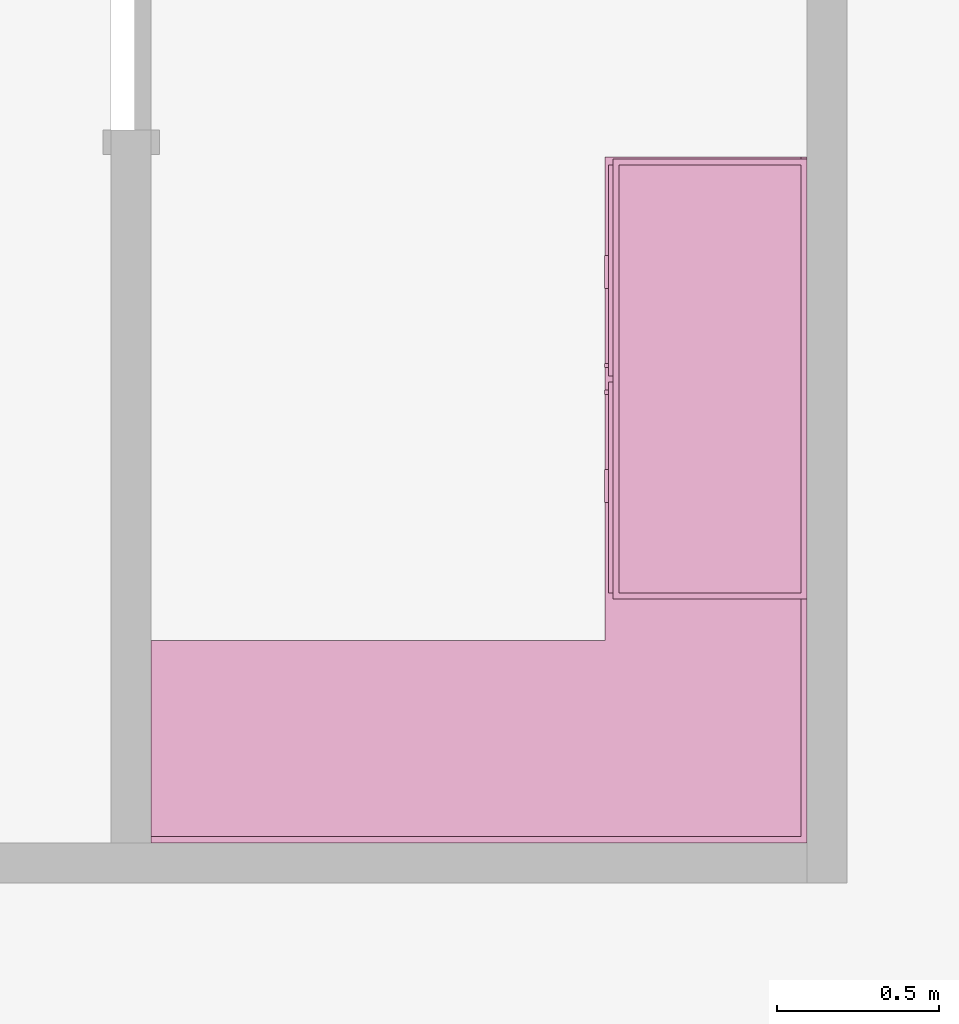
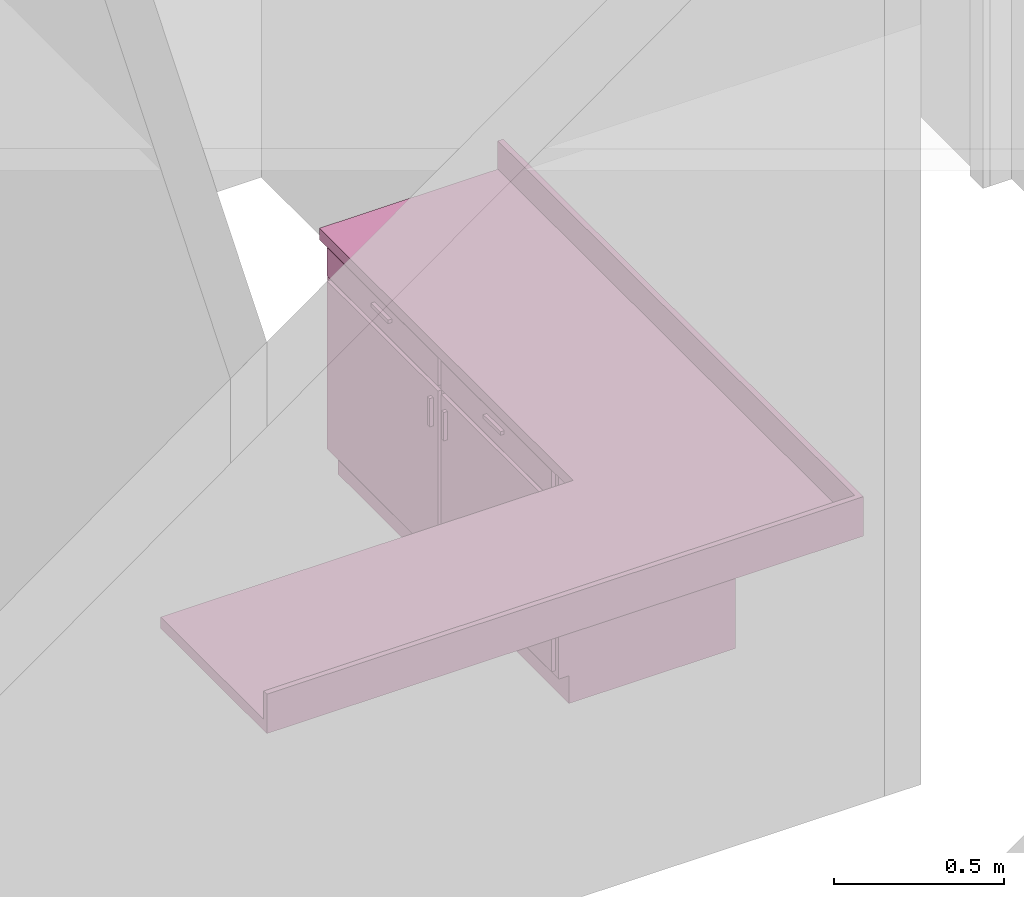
# One storey, part 47 of 47: 2 furnishings.
"""IFC2X3 building model written with IfcOpenShell, lengths in metres."""

from ifc_helpers import new_model, entity, si_unit, converted_unit, frame, origin, place, context, project, spatial, face_set, surface_model, source, transform, mapped, type_object, type_shapes, element, save


model = new_model("IFC2X3")

# Units and contexts
model_context = context("Model", 3, precision=1e-09, world=origin())
plan_context = context("Plan", 3, precision=1e-09, world=origin())
ifc_project = project(units=[si_unit("LENGTHUNIT", "METRE"), si_unit("AREAUNIT", "SQUARE_METRE"), si_unit("VOLUMEUNIT", "CUBIC_METRE"), converted_unit("PLANEANGLEUNIT", "DEGREE", entity("IfcRatioMeasure", 0.01745329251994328), si_unit("PLANEANGLEUNIT", "RADIAN"), dimensions=[0, 0, 0, 0, 0, 0, 0]), si_unit("TIMEUNIT", "SECOND")], contexts=[model_context, plan_context])

# Site, building, storey, space
site_placement = place(None, origin())
site = spatial("IfcSite", under=ifc_project, at=site_placement, Name="Default", CompositionType="ELEMENT")
building_placement = place(site_placement, origin())
building = spatial("IfcBuilding", under=site, at=building_placement, CompositionType="ELEMENT")
storey_placement = place(building_placement, frame((0.0, 0.0, 4.570000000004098)))
storey = spatial("IfcBuildingStorey", under=building, at=storey_placement, Name="Second Floor", CompositionType="ELEMENT", Elevation=4.570000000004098)
space_placement = place(storey_placement, origin())
space = spatial("IfcSpace", under=storey, at=space_placement, Name="2A13", CompositionType="ELEMENT", InteriorOrExteriorSpace="INTERNAL")

# Furnishings
furniture_type_1 = type_object("IfcFurnitureType", Name="1360mm", AssemblyPlace="NOTDEFINED")
shared_shape_1 = source(origin(), model_context, "Body", "SurfaceModel", [
    surface_model("IfcFaceBasedSurfaceModel", [(1.340949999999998, 0.04445000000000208, 0.86000000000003), (1.340949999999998, 0.04445000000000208, 0.09999999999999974), (0.01905000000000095, 0.04445000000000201, 0.09999999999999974), (0.01905000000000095, 0.04445000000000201, 0.86000000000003), (1.359999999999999, 0.02540000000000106, 0.8600000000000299), (0.0, 0.02540000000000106, 0.8600000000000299), (1.359999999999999, 0.02540000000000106, 0.09999999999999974), (0.0, 0.02540000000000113, 0.0999999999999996), (0.01905000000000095, 0.6063499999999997, 0.86000000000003), (0.01905000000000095, 0.6063499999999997, 0.09999999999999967), (0.01905000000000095, 0.06040000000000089, 0.09999999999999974), (0.0, 0.6254000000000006, 0.8600000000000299), (0.0, 0.6254000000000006, 0.0), (0.0, 0.06040000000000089, 0.0), (0.0, 0.06040000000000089, 0.09999999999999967), (1.340949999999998, 0.6063499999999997, 0.86000000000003), (1.340949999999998, 0.6063499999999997, 0.09999999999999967), (1.359999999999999, 0.6254000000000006, 0.8600000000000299), (1.359999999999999, 0.6254000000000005, 0.0), (1.340949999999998, 0.06040000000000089, 0.09999999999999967), (1.359999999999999, 0.06040000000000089, 0.09999999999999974), (1.359999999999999, 0.06040000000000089, 0.0), (0.4003250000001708, 0.0, 0.8155500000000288), (0.4003250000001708, 0.0, 0.8028500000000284), (0.2987250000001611, 0.0, 0.8028500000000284), (0.2987250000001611, 0.0, 0.8155500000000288), (1.061275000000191, 0.0, 0.8155500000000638), (1.061275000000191, 0.0, 0.8028500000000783), (0.9596750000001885, 0.0, 0.8028500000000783), (0.9596750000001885, 0.0, 0.8155500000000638), (0.6450750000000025, 0.0, 0.6822000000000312), (0.6450750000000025, 0.0, 0.5806000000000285), (0.6323750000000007, 0.0, 0.5806000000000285), (0.6323750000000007, 0.0, 0.6822000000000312), (0.7276249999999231, 0.0, 0.6822000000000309), (0.7276249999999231, 0.0, 0.5806000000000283), (0.7149249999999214, 0.0, 0.5806000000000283), (0.7149249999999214, 0.0, 0.6822000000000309), (0.4003250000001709, 0.01270000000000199, 0.8155500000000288), (0.4003250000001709, 0.01270000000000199, 0.8028500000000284), (0.2987250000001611, 0.01270000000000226, 0.8028500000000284), (0.2987250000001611, 0.01270000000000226, 0.8155500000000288), (1.061275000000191, 0.01269999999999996, 0.8155500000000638), (1.061275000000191, 0.01269999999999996, 0.8028500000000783), (0.9596750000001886, 0.01270000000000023, 0.8028500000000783), (0.9596750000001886, 0.01270000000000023, 0.8155500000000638), (0.6450750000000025, 0.01270000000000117, 0.6822000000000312), (0.6450750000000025, 0.01270000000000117, 0.5806000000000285), (0.6323750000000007, 0.01270000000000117, 0.5806000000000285), (0.6323750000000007, 0.01270000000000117, 0.6822000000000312), (0.7276249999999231, 0.0127000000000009, 0.6822000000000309), (0.7276249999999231, 0.0127000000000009, 0.5806000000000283), (0.7149249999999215, 0.01270000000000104, 0.5806000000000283), (0.7149249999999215, 0.01270000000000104, 0.6822000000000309), (0.6704749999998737, 0.01270000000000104, 0.8409500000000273), (0.6704749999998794, 0.01270000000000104, 0.7393500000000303), (0.01905000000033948, 0.01270000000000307, 0.7393500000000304), (0.01905000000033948, 0.01270000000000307, 0.8409500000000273), (1.340950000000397, 0.01269999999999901, 0.8409500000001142), (1.340950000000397, 0.01269999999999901, 0.7393500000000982), (0.6895249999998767, 0.01270000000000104, 0.7393500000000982), (0.6895249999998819, 0.01270000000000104, 0.8409500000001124), (0.6704749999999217, 0.01270000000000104, 0.7203000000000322), (0.6704749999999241, 0.01270000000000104, 0.1190499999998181), (0.01905000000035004, 0.01270000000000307, 0.1190499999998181), (0.01905000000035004, 0.01270000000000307, 0.7203000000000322), (1.340950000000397, 0.01269999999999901, 0.7203000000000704), (1.340950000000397, 0.01269999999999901, 0.1190499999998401), (0.6895249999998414, 0.01270000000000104, 0.1190499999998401), (0.6895249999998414, 0.01270000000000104, 0.7203000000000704), (0.6704749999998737, 0.025400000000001, 0.8409500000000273), (0.6704749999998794, 0.025400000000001, 0.7393500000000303), (0.01905000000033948, 0.02540000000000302, 0.7393500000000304), (0.01905000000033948, 0.02540000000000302, 0.8409500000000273), (1.340950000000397, 0.02539999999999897, 0.8409500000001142), (1.340950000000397, 0.02539999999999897, 0.7393500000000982), (0.6895249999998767, 0.02540000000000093, 0.7393500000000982), (0.6895249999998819, 0.02540000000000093, 0.8409500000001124), (0.6704749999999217, 0.025400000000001, 0.7203000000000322), (0.6704749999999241, 0.025400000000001, 0.1190499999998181), (0.01905000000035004, 0.02540000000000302, 0.1190499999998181), (0.01905000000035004, 0.02540000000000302, 0.7203000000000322), (1.340950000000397, 0.02539999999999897, 0.7203000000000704), (1.340950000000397, 0.02539999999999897, 0.1190499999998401), (0.6895249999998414, 0.02540000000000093, 0.1190499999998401), (0.6895249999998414, 0.02540000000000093, 0.7203000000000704), (1.340949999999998, 0.6063499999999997, 0.1190499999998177), (1.340949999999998, 0.04445000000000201, 0.1190499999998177), (0.01905000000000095, 0.04445000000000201, 0.1190499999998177), (0.01905000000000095, 0.6063499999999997, 0.1190499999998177), (1.340949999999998, 0.6063499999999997, 0.09999999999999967), (1.340949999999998, 0.04445000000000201, 0.09999999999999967), (0.01905000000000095, 0.04445000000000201, 0.09999999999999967), (0.01905000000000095, 0.6063499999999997, 0.09999999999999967)], [face_set([[[0, 1, 2, 3]], [[0, 4, 5, 3]], [[4, 6, 7, 5]], [[2, 1, 6, 7]], [[3, 8, 9, 10, 2]], [[5, 11, 8, 3]], [[7, 5, 11, 12, 13, 14]], [[2, 7, 14, 10]], [[8, 15, 16, 9]], [[11, 17, 15, 8]], [[12, 11, 17, 18]], [[1, 19, 16, 15, 0]], [[0, 15, 17, 4]], [[4, 6, 20, 21, 18, 17]], [[6, 1, 19, 20]], [[10, 9, 16, 19]], [[18, 21, 13, 12]], [[13, 14, 10, 19, 20, 21]]]), face_set([[[22, 23, 24, 25]], [[26, 27, 28, 29]], [[30, 31, 32, 33]], [[34, 35, 36, 37]], [[38, 39, 40, 41]], [[42, 43, 44, 45]], [[46, 47, 48, 49]], [[50, 51, 52, 53]], [[25, 41, 38, 22]], [[24, 40, 41, 25]], [[23, 24, 40, 39]], [[22, 23, 39, 38]], [[29, 45, 42, 26]], [[28, 44, 45, 29]], [[27, 28, 44, 43]], [[26, 27, 43, 42]], [[33, 49, 46, 30]], [[32, 48, 49, 33]], [[31, 32, 48, 47]], [[30, 31, 47, 46]], [[37, 53, 50, 34]], [[36, 52, 53, 37]], [[35, 36, 52, 51]], [[34, 35, 51, 50]]]), face_set([[[54, 55, 56, 57]], [[58, 59, 60, 61]], [[62, 63, 64, 65]], [[66, 67, 68, 69]], [[70, 71, 72, 73]], [[74, 75, 76, 77]], [[78, 79, 80, 81]], [[82, 83, 84, 85]], [[57, 73, 70, 54]], [[56, 57, 73, 72]], [[55, 56, 72, 71]], [[54, 55, 71, 70]], [[61, 77, 74, 58]], [[60, 76, 77, 61]], [[59, 60, 76, 75]], [[58, 59, 75, 74]], [[65, 81, 78, 62]], [[64, 65, 81, 80]], [[63, 64, 80, 79]], [[62, 63, 79, 78]], [[69, 85, 82, 66]], [[68, 84, 85, 69]], [[67, 68, 84, 83]], [[66, 67, 83, 82]]]), face_set([[[86, 87, 88, 89]], [[90, 91, 92, 93]], [[89, 86, 90, 93]], [[88, 89, 93, 92]], [[87, 91, 92, 88]], [[86, 87, 91, 90]]])]),
])
type_shapes(furniture_type_1, [shared_shape_1])
furnishing_1_placement = place(space_placement, frame((-6.729400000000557, 43.49145176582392, 0.0), z_axis=(0.0, 0.0, 1.0), x_axis=(0.0, -1.0, 0.0)))
element("IfcFurnishingElement", 1, at=furnishing_1_placement, inside=space, type_object=furniture_type_1, Name="M_Base Cabinet-Double Door & 2 Drawer:1360mm:1360mm", ObjectType="1360mm", context=model_context, shape_type="MappedRepresentation", body=[
    mapped(shared_shape_1, transform((0.0, 0.0, 0.0), scale=1.0)),
])
furniture_type_2 = type_object("IfcFurnitureType", Name="600mm Depth", AssemblyPlace="NOTDEFINED")
shared_shape_2 = source(origin(), model_context, "Body", "SurfaceModel", [
    surface_model("IfcFaceBasedSurfaceModel", [(0.6249999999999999, 0.0, 0.04000000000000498), (0.6249999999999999, 1.493042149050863, 0.04000000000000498), (2.026, 1.493042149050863, 0.04000000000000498), (2.026, 2.098992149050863, 0.04000000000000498), (0.01904999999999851, 2.098992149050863, 0.04000000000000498), (0.01904999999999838, 0.0, 0.04000000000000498), (2.026, 2.118042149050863, 0.0), (2.026, 1.493042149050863, 0.0), (0.6249999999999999, 1.493042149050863, 0.0), (0.6249999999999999, 0.0, 0.0), (0.0, 0.0, 0.0), (0.0, 2.118042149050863, 0.0), (0.0, 2.118042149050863, 0.1416000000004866), (2.026, 2.118042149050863, 0.1416000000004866), (0.0, 0.0, 0.1416000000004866), (0.01904999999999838, 0.0, 0.1416000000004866), (2.026, 2.098992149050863, 0.1416000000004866), (0.01904999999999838, 2.098992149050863, 0.1416000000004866)], [face_set([[[0, 1, 2, 3, 4, 5]], [[6, 7, 8, 9, 10, 11]], [[6, 11, 12, 13]], [[11, 12, 14, 10]], [[14, 15, 5, 0, 9, 10]], [[1, 0, 9, 8]], [[2, 7, 8, 1]], [[7, 6, 13, 16, 3, 2]], [[12, 13, 16, 17, 15, 14]], [[3, 4, 17, 16]], [[17, 15, 5, 4]]])]),
])
type_shapes(furniture_type_2, [shared_shape_2])
furnishing_2_placement = place(space_placement, frame((-6.10400000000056, 43.49648085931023, 0.8600000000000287), z_axis=(0.0, 0.0, 1.0), x_axis=(-1.0, 0.0, 0.0)))
element("IfcFurnishingElement", 2, at=furnishing_2_placement, inside=space, type_object=furniture_type_2, Name="M_Counter Top-L Shaped:600mm Depth:600mm Depth", ObjectType="600mm Depth", context=model_context, shape_type="MappedRepresentation", body=[
    mapped(shared_shape_2, transform((0.0, 0.0, 0.0), scale=1.0)),
])

save(model, "model.ifc")
